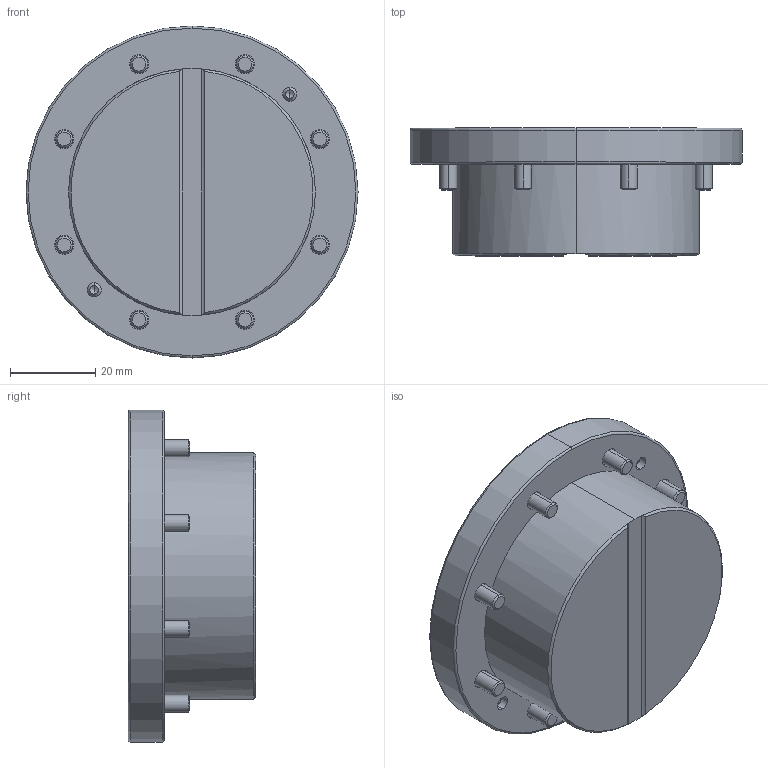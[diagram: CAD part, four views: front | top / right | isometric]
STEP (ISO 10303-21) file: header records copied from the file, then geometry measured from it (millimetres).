
FILE_DESCRIPTION (( 'STEP AP214' ), '1' );
FILE_NAME ('LQNC-5.STEP', '2019-07-04T02:51:17', ( 'PC' ), ( 'Microsoft' ), 'SwSTEP 2.0', 'SolidWorks 2018', '' );
FILE_SCHEMA (( 'AUTOMOTIVE_DESIGN' ));
Length unit declared in the file: millimetre
Products named in the file (1): LQNC-5
Bounding box: 78 x 30 x 78 mm (x, y, z)
Volume: 91776.1 mm3; surface area: 20423.6 mm2
Topology: 11 solids, 11 shells, 411 faces, 946 edges, 568 vertices
Faces by surface type: plane 153, cone 116, cylinder 104, torus 38
Entity records: 16195 total; most frequent: DIRECTION 2220, CARTESIAN_POINT 1934, ORIENTED_EDGE 1852, EDGE_CURVE 926, AXIS2_PLACEMENT_3D 886, VERTEX_POINT 568, CIRCLE 474, EDGE_LOOP 462
